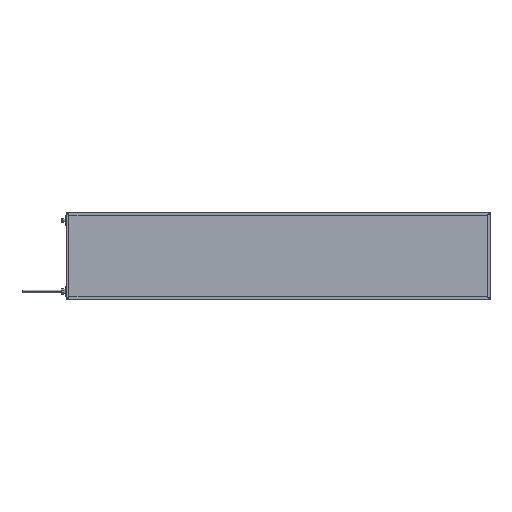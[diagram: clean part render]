
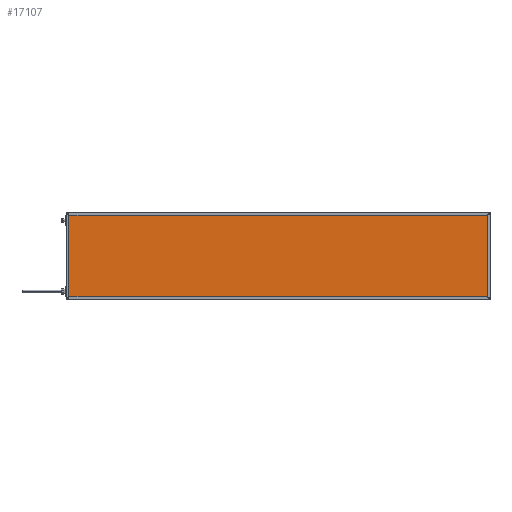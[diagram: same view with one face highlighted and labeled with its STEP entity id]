
A CAD part, top view. The second image highlights one B-rep face of the part: STEP entity #17107.
In plain terms, the highlighted planar face has unit normal (0, 0, 1).
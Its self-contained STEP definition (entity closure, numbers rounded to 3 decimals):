
#634 = VERTEX_POINT ( 'NONE', #3600 ) ;
#806 = LINE ( 'NONE', #6644, #5375 ) ;
#1278 = VECTOR ( 'NONE', #10152, 1000. ) ;
#1827 = VERTEX_POINT ( 'NONE', #4912 ) ;
#2098 = DIRECTION ( 'NONE',  ( 0., 0., -1. ) ) ;
#2418 = VECTOR ( 'NONE', #3235, 1000. ) ;
#3235 = DIRECTION ( 'NONE',  ( 0., -1., 0. ) ) ;
#3279 = ORIENTED_EDGE ( 'NONE', *, *, #16049, .T. ) ;
#3383 = EDGE_CURVE ( 'NONE', #11253, #1827, #9883, .T. ) ;
#3600 = CARTESIAN_POINT ( 'NONE',  ( 1496., 4., 41.85 ) ) ;
#3754 = DIRECTION ( 'NONE',  ( -1., 0., 0. ) ) ;
#3848 = LINE ( 'NONE', #16426, #18022 ) ;
#3879 = CARTESIAN_POINT ( 'NONE',  ( 4., 296., 41.85 ) ) ;
#4217 = EDGE_CURVE ( 'NONE', #1827, #634, #15204, .T. ) ;
#4912 = CARTESIAN_POINT ( 'NONE',  ( 4., 4., 41.85 ) ) ;
#5250 = EDGE_CURVE ( 'NONE', #634, #16294, #806, .T. ) ;
#5375 = VECTOR ( 'NONE', #8006, 1000. ) ;
#6117 = CARTESIAN_POINT ( 'NONE',  ( 0., 0., 41.85 ) ) ;
#6371 = AXIS2_PLACEMENT_3D ( 'NONE', #6117, #2098, #7839 ) ;
#6644 = CARTESIAN_POINT ( 'NONE',  ( 1496., 0., 41.85 ) ) ;
#7839 = DIRECTION ( 'NONE',  ( -1., 0., 0. ) ) ;
#8006 = DIRECTION ( 'NONE',  ( 0., 1., 0. ) ) ;
#8441 = CARTESIAN_POINT ( 'NONE',  ( 1496., 296., 41.85 ) ) ;
#9192 = PLANE ( 'NONE',  #6371 ) ;
#9883 = LINE ( 'NONE', #15718, #2418 ) ;
#10152 = DIRECTION ( 'NONE',  ( 1., 0., 0. ) ) ;
#10286 = ORIENTED_EDGE ( 'NONE', *, *, #5250, .T. ) ;
#10804 = ORIENTED_EDGE ( 'NONE', *, *, #4217, .T. ) ;
#11253 = VERTEX_POINT ( 'NONE', #3879 ) ;
#11610 = CARTESIAN_POINT ( 'NONE',  ( 0., 4., 41.85 ) ) ;
#11643 = EDGE_LOOP ( 'NONE', ( #10286, #3279, #13290, #10804 ) ) ;
#13290 = ORIENTED_EDGE ( 'NONE', *, *, #3383, .T. ) ;
#14757 = FACE_OUTER_BOUND ( 'NONE', #11643, .T. ) ;
#15204 = LINE ( 'NONE', #11610, #1278 ) ;
#15718 = CARTESIAN_POINT ( 'NONE',  ( 4., 0., 41.85 ) ) ;
#16049 = EDGE_CURVE ( 'NONE', #16294, #11253, #3848, .T. ) ;
#16294 = VERTEX_POINT ( 'NONE', #8441 ) ;
#16426 = CARTESIAN_POINT ( 'NONE',  ( 0., 296., 41.85 ) ) ;
#17107 = ADVANCED_FACE ( 'NONE', ( #14757 ), #9192, .F. ) ;
#18022 = VECTOR ( 'NONE', #3754, 1000. ) ;
